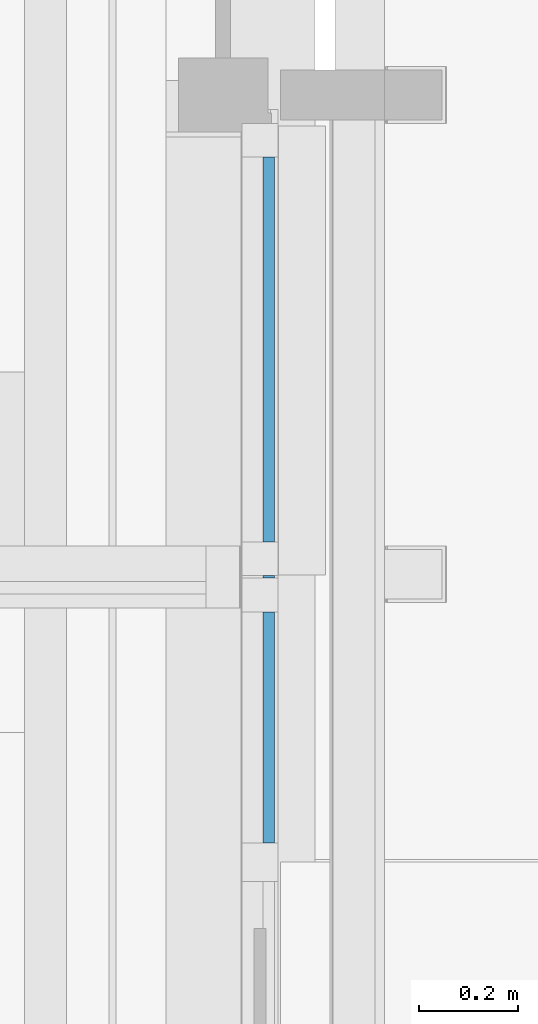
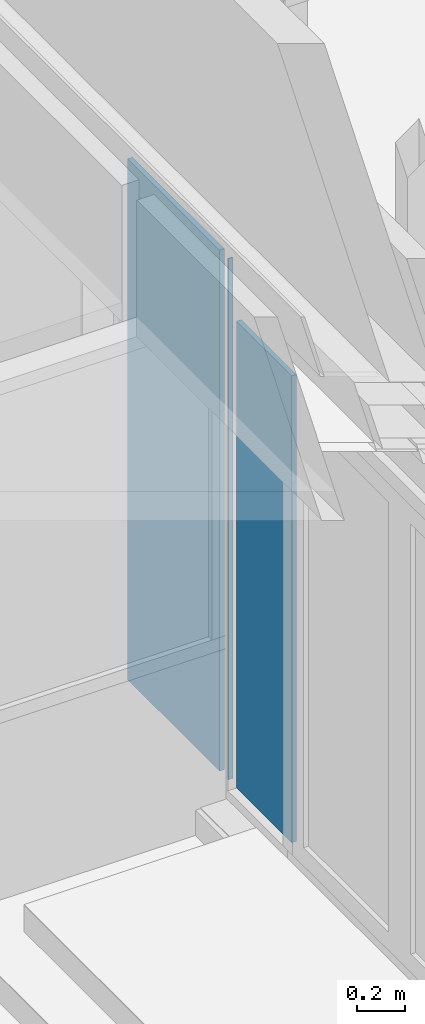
# One storey, part 21 of 118: 3 plates, 1 element without a shape of its own.
"""IFC2X3 building model written with IfcOpenShell, lengths in millimetres."""

from ifc_helpers import new_model, entity, si_unit, converted_unit, derived_unit, direction, frame, frame_2d, origin, origin_2d_with_axis, place, context, subcontext, project, spatial, rectangle, extrude, source, transform, mapped, material, type_object, type_shapes, element, aggregate, save


model = new_model("IFC2X3")

# Units and contexts
model_context = context("Model", 3, precision=0.01, world=origin(), true_north=direction((6.123031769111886e-17, 1.0)))
plan_context = context("Plan", 3, precision=0.01, world=origin(), true_north=direction((6.123031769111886e-17, 1.0)))
body_context = subcontext(model_context, "Body", "Model", "MODEL_VIEW")
ifc_project = project(units=[si_unit("LENGTHUNIT", "METRE", prefix="MILLI"), si_unit("AREAUNIT", "SQUARE_METRE"), si_unit("VOLUMEUNIT", "CUBIC_METRE"), converted_unit("PLANEANGLEUNIT", "DEGREE", entity("IfcRatioMeasure", 0.017453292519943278), si_unit("PLANEANGLEUNIT", "RADIAN"), dimensions=[0, 0, 0, 0, 0, 0, 0]), si_unit("MASSUNIT", "GRAM", prefix="KILO"), derived_unit("MASSDENSITYUNIT", [(si_unit("MASSUNIT", "GRAM", prefix="KILO"), 1), (si_unit("LENGTHUNIT", "METRE"), -3)]), derived_unit("IONCONCENTRATIONUNIT", [(si_unit("MASSUNIT", "GRAM", prefix="KILO"), 1), (si_unit("LENGTHUNIT", "METRE"), -3)]), derived_unit("MOMENTOFINERTIAUNIT", [(si_unit("LENGTHUNIT", "METRE"), 4)]), si_unit("TIMEUNIT", "SECOND"), si_unit("FREQUENCYUNIT", "HERTZ"), si_unit("THERMODYNAMICTEMPERATUREUNIT", "DEGREE_CELSIUS"), derived_unit("THERMALTRANSMITTANCEUNIT", [(si_unit("MASSUNIT", "GRAM", prefix="KILO"), 1), (si_unit("THERMODYNAMICTEMPERATUREUNIT", "KELVIN"), -1), (si_unit("TIMEUNIT", "SECOND"), -3)]), derived_unit("THERMALCONDUCTANCEUNIT", [(si_unit("MASSUNIT", "GRAM", prefix="KILO"), 1), (si_unit("THERMODYNAMICTEMPERATUREUNIT", "KELVIN"), -1), (si_unit("TIMEUNIT", "SECOND"), -3), (si_unit("LENGTHUNIT", "METRE"), 1)]), derived_unit("VOLUMETRICFLOWRATEUNIT", [(si_unit("LENGTHUNIT", "METRE"), 3), (si_unit("TIMEUNIT", "SECOND"), -1)]), derived_unit("MASSFLOWRATEUNIT", [(si_unit("MASSUNIT", "GRAM", prefix="KILO"), 1), (si_unit("TIMEUNIT", "SECOND"), -1)]), derived_unit("ROTATIONALFREQUENCYUNIT", [(si_unit("TIMEUNIT", "SECOND"), -1)]), si_unit("ELECTRICCURRENTUNIT", "AMPERE"), si_unit("ELECTRICVOLTAGEUNIT", "VOLT"), si_unit("POWERUNIT", "WATT"), si_unit("FORCEUNIT", "NEWTON", prefix="KILO"), si_unit("ILLUMINANCEUNIT", "LUX"), si_unit("LUMINOUSFLUXUNIT", "LUMEN"), si_unit("LUMINOUSINTENSITYUNIT", "CANDELA"), derived_unit("USERDEFINED", [(si_unit("MASSUNIT", "GRAM", prefix="KILO"), -1), (si_unit("LENGTHUNIT", "METRE"), -2), (si_unit("TIMEUNIT", "SECOND"), 3), (si_unit("LUMINOUSFLUXUNIT", "LUMEN"), 1)]), derived_unit("USERDEFINED", [(si_unit("MASSUNIT", "GRAM", prefix="KILO"), 1), (si_unit("TIMEUNIT", "SECOND"), -3), (si_unit("LENGTHUNIT", "METRE"), 3), (si_unit("ELECTRICCURRENTUNIT", "AMPERE"), -2)]), derived_unit("SOUNDPOWERUNIT", [(si_unit("MASSUNIT", "GRAM", prefix="KILO"), 1), (si_unit("TIMEUNIT", "SECOND"), -3), (si_unit("LENGTHUNIT", "METRE"), 2)]), derived_unit("SOUNDPRESSUREUNIT", [(si_unit("MASSUNIT", "GRAM", prefix="KILO"), 1), (si_unit("LENGTHUNIT", "METRE"), -1), (si_unit("TIMEUNIT", "SECOND"), -2)]), derived_unit("LINEARVELOCITYUNIT", [(si_unit("LENGTHUNIT", "METRE"), 1), (si_unit("TIMEUNIT", "SECOND"), -1)]), si_unit("PRESSUREUNIT", "PASCAL"), derived_unit("USERDEFINED", [(si_unit("MASSUNIT", "GRAM", prefix="KILO"), 1), (si_unit("LENGTHUNIT", "METRE"), -2), (si_unit("TIMEUNIT", "SECOND"), -2)]), derived_unit("LINEARFORCEUNIT", [(si_unit("MASSUNIT", "GRAM", prefix="KILO"), 1), (si_unit("TIMEUNIT", "SECOND"), -2)]), derived_unit("PLANARFORCEUNIT", [(si_unit("MASSUNIT", "GRAM", prefix="KILO"), 1), (si_unit("LENGTHUNIT", "METRE"), -1), (si_unit("TIMEUNIT", "SECOND"), -2)]), derived_unit("SPECIFICHEATCAPACITYUNIT", [(si_unit("THERMODYNAMICTEMPERATUREUNIT", "KELVIN"), -1), (si_unit("LENGTHUNIT", "METRE"), 2), (si_unit("TIMEUNIT", "SECOND"), -2)]), derived_unit("HEATINGVALUEUNIT", [(si_unit("LENGTHUNIT", "METRE"), 2), (si_unit("TIMEUNIT", "SECOND"), -2)]), derived_unit("VAPORPERMEABILITYUNIT", [(si_unit("LENGTHUNIT", "METRE"), -1), (si_unit("TIMEUNIT", "SECOND"), 1)]), derived_unit("DYNAMICVISCOSITYUNIT", [(si_unit("MASSUNIT", "GRAM", prefix="KILO"), 1), (si_unit("TIMEUNIT", "SECOND"), -1), (si_unit("LENGTHUNIT", "METRE"), -1)]), derived_unit("THERMALEXPANSIONCOEFFICIENTUNIT", [(si_unit("THERMODYNAMICTEMPERATUREUNIT", "KELVIN"), -1)]), derived_unit("MODULUSOFELASTICITYUNIT", [(si_unit("MASSUNIT", "GRAM", prefix="KILO"), 1), (si_unit("LENGTHUNIT", "METRE"), -1), (si_unit("TIMEUNIT", "SECOND"), -2)]), derived_unit("ISOTHERMALMOISTURECAPACITYUNIT", [(si_unit("LENGTHUNIT", "METRE"), 3), (si_unit("MASSUNIT", "GRAM", prefix="KILO"), -1)]), derived_unit("MOISTUREDIFFUSIVITYUNIT", [(si_unit("TIMEUNIT", "SECOND"), -1), (si_unit("LENGTHUNIT", "METRE"), 2)])], contexts=[model_context, plan_context])

# Site, building, storey
site_placement = place(None, origin())
site = spatial("IfcSite", under=ifc_project, at=site_placement, Name="Locatie", CompositionType="ELEMENT")
building_placement = place(site_placement, origin())
building = spatial("IfcBuilding", under=site, at=building_placement, Name="Bouwwerk", CompositionType="ELEMENT")
storey_placement = place(building_placement, frame((0.0, 0.0, 7800.0)))
storey = spatial("IfcBuildingStorey", under=building, at=storey_placement, Name="02 tweede verdieping", CompositionType="ELEMENT", Elevation=7800.000000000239)

# Curtain wall, plates
curtain_wall_type = type_object("IfcCurtainWallType", Name="Curtain Wall:NLRS_21_CW_Ontwerpkozijn_aluminium_RT72", PredefinedType="NOTDEFINED")
curtain_wall_placement = place(storey_placement, frame((0.0, 0.0, -7800.0)))
curtain_wall = element("IfcCurtainWall", 1, at=curtain_wall_placement, inside=storey, type_object=curtain_wall_type, Name="Curtain Wall:NLRS_21_CW_Ontwerpkozijn_aluminium_RT72", ObjectType="Curtain Wall:NLRS_21_CW_Ontwerpkozijn_aluminium_RT72")
ifc_material = material(Name="ISR_Glas")
plate_type_1 = type_object("IfcPlateType", Name="System Panel:RT72_glas", PredefinedType="CURTAIN_PANEL", material=ifc_material)
shared_shape_1 = source(origin(), body_context, "Body", "SweptSolid", [
    extrude(rectangle(XDim=2670.999999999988, YDim=773.4999999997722, at=frame_2d((-365.50000000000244, 0.0), x_axis=(1.0, 0.0))), frame((0.0, 42.0, 1701.0), z_axis=(0.0, 1.0, 0.0), x_axis=(0.0, 0.0, 1.0)), (0.0, 0.0, 1.0), 23.0),
])
type_shapes(plate_type_1, [shared_shape_1])
plate_1_placement = place(curtain_wall_placement, frame((34753.0, 24170.249999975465, 8124.0), z_axis=(0.0, 0.0, 1.0), x_axis=(0.0, -1.0, 0.0)))
plate_1 = element("IfcPlate", 2, at=plate_1_placement, type_object=plate_type_1, material=ifc_material, Name="System Panel:RT72_glas", ObjectType="System Panel:RT72_glas", context=body_context, shape_type="MappedRepresentation", body=[
    mapped(shared_shape_1, transform((0.0, 0.0, 0.0), scale=1.0)),
])
plate_type_2 = type_object("IfcPlateType", Name="System Panel:RT72_glas", PredefinedType="CURTAIN_PANEL", material=ifc_material)
shared_shape_2 = source(origin(), body_context, "Body", "SweptSolid", [
    extrude(rectangle(XDim=2670.999999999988, YDim=4.999999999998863, at=frame_2d((-365.50000000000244, 0.0), x_axis=(1.0, 0.0))), frame((0.0, 42.0, 1701.0), z_axis=(0.0, 1.0, 0.0), x_axis=(0.0, 0.0, 1.0)), (0.0, 0.0, 1.0), 23.0),
])
type_shapes(plate_type_2, [shared_shape_2])
plate_2_placement = place(curtain_wall_placement, frame((34753.0, 23713.0, 8124.0), z_axis=(0.0, 0.0, 1.0), x_axis=(0.0, -1.0, 0.0)))
plate_2 = element("IfcPlate", 3, at=plate_2_placement, type_object=plate_type_2, material=ifc_material, Name="System Panel:RT72_glas", ObjectType="System Panel:RT72_glas", context=body_context, shape_type="MappedRepresentation", body=[
    mapped(shared_shape_2, transform((0.0, 0.0, 0.0), scale=1.0)),
])
plate_type_3 = type_object("IfcPlateType", Name="System Panel:RT72_glas", PredefinedType="CURTAIN_PANEL", material=ifc_material)
shared_shape_3 = source(origin(), body_context, "Body", "SweptSolid", [
    extrude(rectangle(XDim=23.0, YDim=464.4999999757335, at=origin_2d_with_axis()), frame((0.0, 53.49999999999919, 0.0), z_axis=(0.0, 0.0, 1.0), x_axis=(0.0, 1.0, 0.0)), (0.0, 0.0, 1.0), 2393.000000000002),
])
type_shapes(plate_type_3, [shared_shape_3])
plate_3_placement = place(curtain_wall_placement, frame((34753.0, 23410.249999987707, 8124.0), z_axis=(0.0, 0.0, 1.0), x_axis=(0.0, -1.0, 0.0)))
plate_3 = element("IfcPlate", 4, at=plate_3_placement, type_object=plate_type_3, material=ifc_material, Name="System Panel:RT72_glas", ObjectType="System Panel:RT72_glas", context=body_context, shape_type="MappedRepresentation", body=[
    mapped(shared_shape_3, transform((0.0, 0.0, 0.0), scale=1.0)),
])
aggregate(curtain_wall, [plate_1, plate_2, plate_3])

save(model, "model.ifc")
